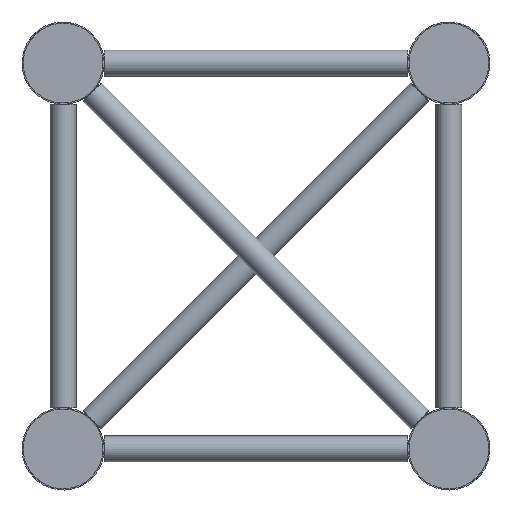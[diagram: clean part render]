
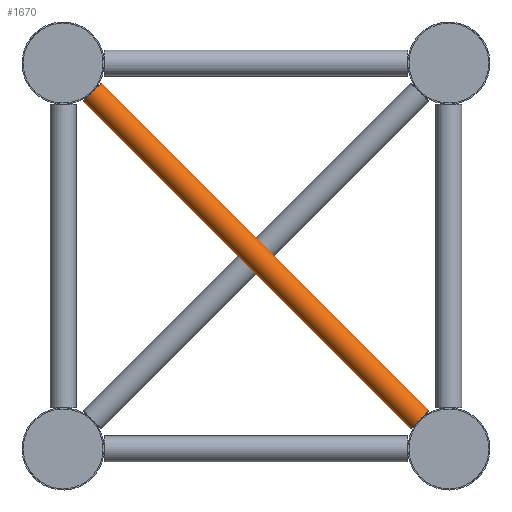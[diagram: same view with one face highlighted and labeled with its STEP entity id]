
A CAD part, left-side view. The second image highlights one B-rep face of the part: STEP entity #1670.
In plain terms, the highlighted cylindrical face has radius 8 mm (diameter 16 mm), a full revolution.
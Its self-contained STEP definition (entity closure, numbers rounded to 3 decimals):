
#47=B_SPLINE_CURVE_WITH_KNOTS('',3,(#2645,#2646,#2647,#2648,#2649,#2650),
 .UNSPECIFIED.,.F.,.F.,(4,2,4),(1.187,1.214,1.242),
 .UNSPECIFIED.);
#49=B_SPLINE_CURVE_WITH_KNOTS('',3,(#2663,#2664,#2665,#2666,#2667,#2668),
 .UNSPECIFIED.,.F.,.F.,(4,2,4),(3.616,3.643,3.67),
 .UNSPECIFIED.);
#50=B_SPLINE_CURVE_WITH_KNOTS('',3,(#2675,#2676,#2677,#2678,#2679,#2680),
 .UNSPECIFIED.,.F.,.F.,(4,2,4),(3.616,3.643,3.67),
 .UNSPECIFIED.);
#51=B_SPLINE_CURVE_WITH_KNOTS('',3,(#2684,#2685,#2686,#2687,#2688,#2689),
 .UNSPECIFIED.,.F.,.F.,(4,2,4),(1.187,1.214,1.242),
 .UNSPECIFIED.);
#170=CYLINDRICAL_SURFACE('',#1817,8.);
#236=FACE_BOUND('',#476,.T.);
#325=FACE_OUTER_BOUND('',#475,.T.);
#475=EDGE_LOOP('',(#1156,#1157,#1158,#1159));
#476=EDGE_LOOP('',(#1160,#1161,#1162,#1163));
#659=CIRCLE('',#1818,8.);
#660=CIRCLE('',#1819,8.);
#661=CIRCLE('',#1820,8.);
#662=CIRCLE('',#1821,8.);
#780=VERTEX_POINT('',#2642);
#781=VERTEX_POINT('',#2644);
#784=VERTEX_POINT('',#2660);
#785=VERTEX_POINT('',#2662);
#786=VERTEX_POINT('',#2673);
#787=VERTEX_POINT('',#2674);
#788=VERTEX_POINT('',#2681);
#789=VERTEX_POINT('',#2683);
#923=EDGE_CURVE('',#781,#780,#47,.T.);
#927=EDGE_CURVE('',#785,#784,#49,.T.);
#929=EDGE_CURVE('',#780,#785,#659,.T.);
#930=EDGE_CURVE('',#784,#781,#660,.T.);
#931=EDGE_CURVE('',#786,#787,#50,.T.);
#932=EDGE_CURVE('',#787,#788,#661,.T.);
#933=EDGE_CURVE('',#788,#789,#51,.T.);
#934=EDGE_CURVE('',#789,#786,#662,.T.);
#1156=ORIENTED_EDGE('',*,*,#923,.T.);
#1157=ORIENTED_EDGE('',*,*,#929,.T.);
#1158=ORIENTED_EDGE('',*,*,#927,.T.);
#1159=ORIENTED_EDGE('',*,*,#930,.T.);
#1160=ORIENTED_EDGE('',*,*,#931,.T.);
#1161=ORIENTED_EDGE('',*,*,#932,.T.);
#1162=ORIENTED_EDGE('',*,*,#933,.T.);
#1163=ORIENTED_EDGE('',*,*,#934,.T.);
#1670=ADVANCED_FACE('',(#325,#236),#170,.T.);
#1817=AXIS2_PLACEMENT_3D('',#2670,#2113,#2114);
#1818=AXIS2_PLACEMENT_3D('',#2671,#2115,#2116);
#1819=AXIS2_PLACEMENT_3D('',#2672,#2117,#2118);
#1820=AXIS2_PLACEMENT_3D('',#2682,#2119,#2120);
#1821=AXIS2_PLACEMENT_3D('',#2690,#2121,#2122);
#2113=DIRECTION('center_axis',(0.,0.707,
0.707));
#2114=DIRECTION('ref_axis',(0.,0.707,-0.707));
#2115=DIRECTION('center_axis',(0.,0.707,
0.707));
#2116=DIRECTION('ref_axis',(0.,0.707,-0.707));
#2117=DIRECTION('center_axis',(0.,0.707,
0.707));
#2118=DIRECTION('ref_axis',(0.,0.707,-0.707));
#2119=DIRECTION('center_axis',(0.,-0.707,
-0.707));
#2120=DIRECTION('ref_axis',(0.,0.707,-0.707));
#2121=DIRECTION('center_axis',(0.,-0.707,
-0.707));
#2122=DIRECTION('ref_axis',(0.,0.707,-0.707));
#2642=CARTESIAN_POINT('',(60.995,18.224,-221.164));
#2644=CARTESIAN_POINT('',(60.995,17.836,-220.776));
#2645=CARTESIAN_POINT('Ctrl Pts',(60.995,17.836,-220.776));
#2646=CARTESIAN_POINT('Ctrl Pts',(60.998,17.902,-220.84));
#2647=CARTESIAN_POINT('Ctrl Pts',(61.,17.967,-220.904));
#2648=CARTESIAN_POINT('Ctrl Pts',(61.,18.096,-221.033));
#2649=CARTESIAN_POINT('Ctrl Pts',(60.998,18.16,-221.098));
#2650=CARTESIAN_POINT('Ctrl Pts',(60.995,18.224,-221.164));
#2660=CARTESIAN_POINT('',(45.005,17.836,-220.776));
#2662=CARTESIAN_POINT('',(45.005,18.224,-221.164));
#2663=CARTESIAN_POINT('Ctrl Pts',(45.005,18.224,-221.164));
#2664=CARTESIAN_POINT('Ctrl Pts',(45.002,18.16,-221.098));
#2665=CARTESIAN_POINT('Ctrl Pts',(45.,18.096,-221.033));
#2666=CARTESIAN_POINT('Ctrl Pts',(45.,17.967,-220.904));
#2667=CARTESIAN_POINT('Ctrl Pts',(45.002,17.902,-220.84));
#2668=CARTESIAN_POINT('Ctrl Pts',(45.005,17.836,-220.776));
#2670=CARTESIAN_POINT('Origin',(53.,119.5,-119.5));
#2671=CARTESIAN_POINT('Origin',(53.,18.03,-220.97));
#2672=CARTESIAN_POINT('Origin',(53.,18.03,-220.97));
#2673=CARTESIAN_POINT('',(60.995,221.164,-18.224));
#2674=CARTESIAN_POINT('',(60.995,220.776,-17.836));
#2675=CARTESIAN_POINT('Ctrl Pts',(60.995,221.164,-18.224));
#2676=CARTESIAN_POINT('Ctrl Pts',(60.998,221.098,-18.16));
#2677=CARTESIAN_POINT('Ctrl Pts',(61.,221.033,-18.096));
#2678=CARTESIAN_POINT('Ctrl Pts',(61.,220.904,-17.967));
#2679=CARTESIAN_POINT('Ctrl Pts',(60.998,220.84,-17.902));
#2680=CARTESIAN_POINT('Ctrl Pts',(60.995,220.776,-17.836));
#2681=CARTESIAN_POINT('',(45.005,220.776,-17.836));
#2682=CARTESIAN_POINT('Origin',(53.,220.97,-18.03));
#2683=CARTESIAN_POINT('',(45.005,221.164,-18.224));
#2684=CARTESIAN_POINT('Ctrl Pts',(45.005,220.776,-17.836));
#2685=CARTESIAN_POINT('Ctrl Pts',(45.002,220.84,-17.902));
#2686=CARTESIAN_POINT('Ctrl Pts',(45.,220.904,-17.967));
#2687=CARTESIAN_POINT('Ctrl Pts',(45.,221.033,-18.096));
#2688=CARTESIAN_POINT('Ctrl Pts',(45.002,221.098,-18.16));
#2689=CARTESIAN_POINT('Ctrl Pts',(45.005,221.164,-18.224));
#2690=CARTESIAN_POINT('Origin',(53.,220.97,-18.03));
